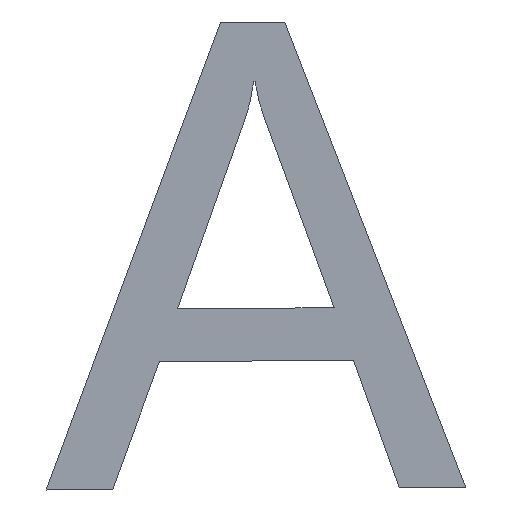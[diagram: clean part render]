
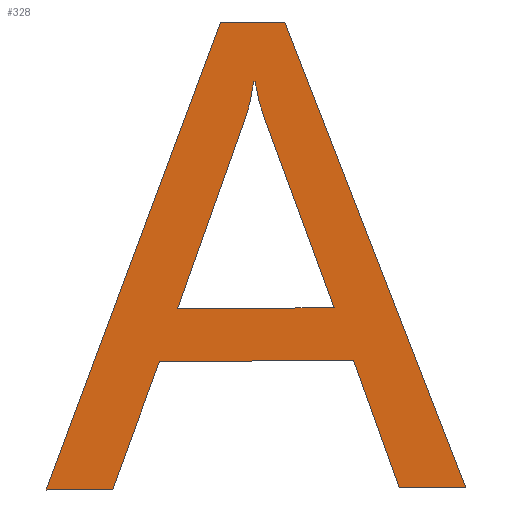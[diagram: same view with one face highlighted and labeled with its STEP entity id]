
A CAD part, front view. The second image highlights one B-rep face of the part: STEP entity #328.
In plain terms, the highlighted planar face has unit normal (0, -1, 0).
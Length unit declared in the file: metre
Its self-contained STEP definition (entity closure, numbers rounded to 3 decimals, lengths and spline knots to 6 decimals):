
#12=B_SPLINE_CURVE_WITH_KNOTS('',3,(#540,#541,#542,#543),.UNSPECIFIED.,
 .F.,.F.,(4,4),(3.,4.),.UNSPECIFIED.);
#14=B_SPLINE_CURVE_WITH_KNOTS('',3,(#565,#566,#567,#568),.UNSPECIFIED.,
 .F.,.F.,(4,4),(1.,2.),.UNSPECIFIED.);
#74=ORIENTED_EDGE('',*,*,#102,.T.);
#75=ORIENTED_EDGE('',*,*,#118,.T.);
#76=ORIENTED_EDGE('',*,*,#115,.T.);
#77=ORIENTED_EDGE('',*,*,#112,.T.);
#78=ORIENTED_EDGE('',*,*,#109,.T.);
#79=ORIENTED_EDGE('',*,*,#106,.T.);
#80=ORIENTED_EDGE('',*,*,#142,.F.);
#81=ORIENTED_EDGE('',*,*,#120,.F.);
#82=ORIENTED_EDGE('',*,*,#124,.F.);
#83=ORIENTED_EDGE('',*,*,#127,.F.);
#84=ORIENTED_EDGE('',*,*,#130,.F.);
#85=ORIENTED_EDGE('',*,*,#133,.F.);
#86=ORIENTED_EDGE('',*,*,#136,.F.);
#87=ORIENTED_EDGE('',*,*,#139,.F.);
#102=EDGE_CURVE('',#144,#145,#172,.T.);
#106=EDGE_CURVE('',#148,#144,#12,.T.);
#109=EDGE_CURVE('',#150,#148,#177,.T.);
#112=EDGE_CURVE('',#152,#150,#14,.T.);
#115=EDGE_CURVE('',#154,#152,#181,.T.);
#118=EDGE_CURVE('',#145,#154,#184,.T.);
#120=EDGE_CURVE('',#156,#157,#186,.T.);
#124=EDGE_CURVE('',#160,#156,#190,.T.);
#127=EDGE_CURVE('',#162,#160,#193,.T.);
#130=EDGE_CURVE('',#164,#162,#196,.T.);
#133=EDGE_CURVE('',#166,#164,#199,.T.);
#136=EDGE_CURVE('',#168,#166,#202,.T.);
#139=EDGE_CURVE('',#170,#168,#205,.T.);
#142=EDGE_CURVE('',#157,#170,#208,.T.);
#144=VERTEX_POINT('',#525);
#145=VERTEX_POINT('',#526);
#148=VERTEX_POINT('',#544);
#150=VERTEX_POINT('',#553);
#152=VERTEX_POINT('',#569);
#154=VERTEX_POINT('',#578);
#156=VERTEX_POINT('',#587);
#157=VERTEX_POINT('',#588);
#160=VERTEX_POINT('',#596);
#162=VERTEX_POINT('',#602);
#164=VERTEX_POINT('',#608);
#166=VERTEX_POINT('',#614);
#168=VERTEX_POINT('',#620);
#170=VERTEX_POINT('',#626);
#172=LINE('',#524,#210);
#177=LINE('',#552,#215);
#181=LINE('',#577,#219);
#184=LINE('',#583,#222);
#186=LINE('',#586,#224);
#190=LINE('',#595,#228);
#193=LINE('',#601,#231);
#196=LINE('',#607,#234);
#199=LINE('',#613,#237);
#202=LINE('',#619,#240);
#205=LINE('',#625,#243);
#208=LINE('',#631,#246);
#210=VECTOR('',#458,1.);
#215=VECTOR('',#465,1.);
#219=VECTOR('',#471,1.);
#222=VECTOR('',#476,1.);
#224=VECTOR('',#480,1.);
#228=VECTOR('',#486,1.);
#231=VECTOR('',#491,1.);
#234=VECTOR('',#496,1.);
#237=VECTOR('',#501,1.);
#240=VECTOR('',#506,1.);
#243=VECTOR('',#511,1.);
#246=VECTOR('',#516,1.);
#262=EDGE_LOOP('',(#74,#75,#76,#77,#78,#79));
#263=EDGE_LOOP('',(#80,#81,#82,#83,#84,#85,#86,#87));
#280=FACE_BOUND('',#262,.T.);
#281=FACE_BOUND('',#263,.T.);
#296=PLANE('',#452);
#328=ADVANCED_FACE('',(#280,#281),#296,.T.);
#452=AXIS2_PLACEMENT_3D('',#633,#518,#519);
#458=DIRECTION('',(0.345,0.,-0.939));
#465=DIRECTION('',(1.,0.,0.007));
#471=DIRECTION('',(0.335,0.,0.942));
#476=DIRECTION('',(-1.,0.,-0.007));
#480=DIRECTION('',(-1.,0.,-0.007));
#486=DIRECTION('',(-0.343,0.,-0.939));
#491=DIRECTION('',(-1.,0.,-0.007));
#496=DIRECTION('',(-0.338,0.,0.941));
#501=DIRECTION('',(-1.,0.,-0.007));
#506=DIRECTION('',(0.363,0.,-0.932));
#511=DIRECTION('',(1.,0.,0.007));
#516=DIRECTION('',(0.349,0.,0.937));
#518=DIRECTION('',(0.,-1.,0.));
#519=DIRECTION('',(0.,0.,-1.));
#524=CARTESIAN_POINT('',(-0.079553,-0.053656,0.029065));
#525=CARTESIAN_POINT('',(-0.079553,-0.053656,0.029065));
#526=CARTESIAN_POINT('',(-0.079491,-0.053656,0.028897));
#540=CARTESIAN_POINT('',(-0.07956,-0.053656,0.029094));
#541=CARTESIAN_POINT('',(-0.079558,-0.053656,0.029081));
#542=CARTESIAN_POINT('',(-0.079556,-0.053656,0.029072));
#543=CARTESIAN_POINT('',(-0.079553,-0.053656,0.029065));
#544=CARTESIAN_POINT('',(-0.07956,-0.053656,0.029094));
#552=CARTESIAN_POINT('',(-0.079561,-0.053656,0.029094));
#553=CARTESIAN_POINT('',(-0.079561,-0.053656,0.029094));
#565=CARTESIAN_POINT('',(-0.079568,-0.053656,0.029065));
#566=CARTESIAN_POINT('',(-0.079566,-0.053656,0.029071));
#567=CARTESIAN_POINT('',(-0.079564,-0.053656,0.02908));
#568=CARTESIAN_POINT('',(-0.079561,-0.053656,0.029094));
#569=CARTESIAN_POINT('',(-0.079568,-0.053656,0.029065));
#577=CARTESIAN_POINT('',(-0.079628,-0.053656,0.028896));
#578=CARTESIAN_POINT('',(-0.079628,-0.053656,0.028896));
#583=CARTESIAN_POINT('',(-0.079491,-0.053656,0.028897));
#586=CARTESIAN_POINT('',(-0.079742,-0.053656,0.028738));
#587=CARTESIAN_POINT('',(-0.079684,-0.053656,0.028738));
#588=CARTESIAN_POINT('',(-0.079742,-0.053656,0.028738));
#595=CARTESIAN_POINT('',(-0.079684,-0.053656,0.028738));
#596=CARTESIAN_POINT('',(-0.079644,-0.053656,0.02885));
#601=CARTESIAN_POINT('',(-0.079644,-0.053656,0.02885));
#602=CARTESIAN_POINT('',(-0.079474,-0.053656,0.028851));
#607=CARTESIAN_POINT('',(-0.079474,-0.053656,0.028851));
#608=CARTESIAN_POINT('',(-0.079434,-0.053656,0.02874));
#613=CARTESIAN_POINT('',(-0.079434,-0.053656,0.02874));
#614=CARTESIAN_POINT('',(-0.079376,-0.053656,0.02874));
#619=CARTESIAN_POINT('',(-0.079376,-0.053656,0.02874));
#620=CARTESIAN_POINT('',(-0.079534,-0.053656,0.029146));
#625=CARTESIAN_POINT('',(-0.079534,-0.053656,0.029146));
#626=CARTESIAN_POINT('',(-0.07959,-0.053656,0.029145));
#631=CARTESIAN_POINT('',(-0.07959,-0.053656,0.029145));
#633=CARTESIAN_POINT('',(-0.07802,-0.053656,0.0095));
